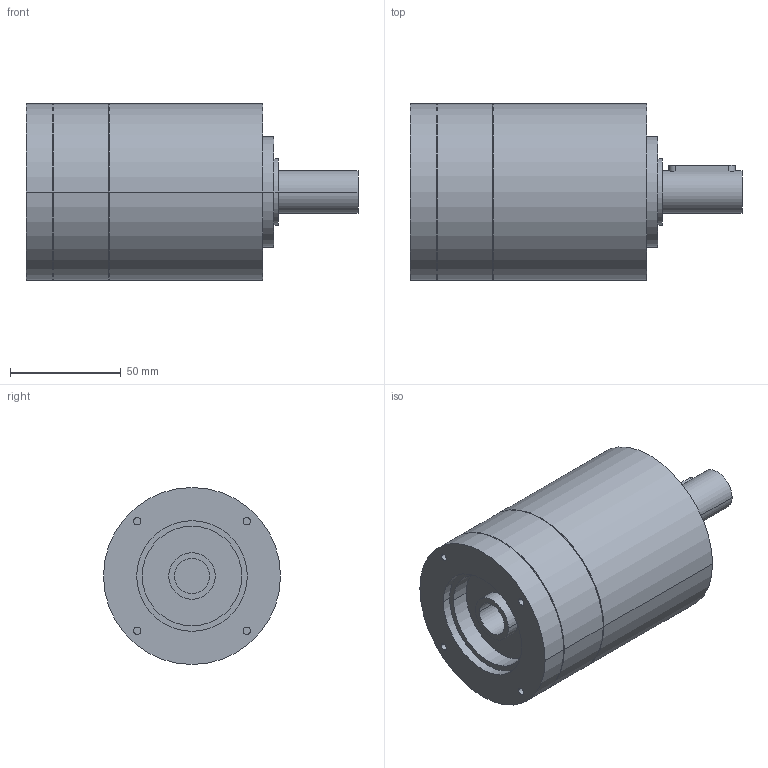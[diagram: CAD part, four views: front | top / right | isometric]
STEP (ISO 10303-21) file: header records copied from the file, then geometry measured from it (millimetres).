
FILE_DESCRIPTION(('CoCreate Modeling STEP Export'),'2;1');
FILE_NAME('GPR100_ig-3-4-5-6_19_B14_15.87_P22.stp','2014-08-26T10:07:50',(''),(''),'CoCreate Modeling STEP processor for AP214 (Solid Model)','CoCreate Modeling 16.00C 25-Feb-2009 (C) Parametric Technology GmbH','');
FILE_SCHEMA(('AUTOMOTIVE_DESIGN { 1 0 10303 214 1 1 1 1 }'));
Length unit declared in the file: millimetre
Products named in the file (2): GPR100_ig-3-4-5-6_19_B14_15.87_P22
Assembly tree (1 placements, depth 2):
  GPR100_ig-3-4-5-6_19_B14_15.87_P22
    GPR100_ig-3-4-5-6_19_B14_15.87_P22
Bounding box: 150 x 80 x 80 mm (x, y, z)
Volume: 531520.7 mm3; surface area: 46481.4 mm2
Topology: 1 solids, 1 shells, 68 faces, 162 edges, 112 vertices
Faces by surface type: cylinder 40, plane 22, cone 6
Entity records: 1691 total; most frequent: ORIENTED_EDGE 320, CARTESIAN_POINT 314, DIRECTION 224, EDGE_CURVE 160, VERTEX_POINT 112, AXIS2_PLACEMENT_3D 86, EDGE_LOOP 86, FACE_OUTER_BOUND 68
